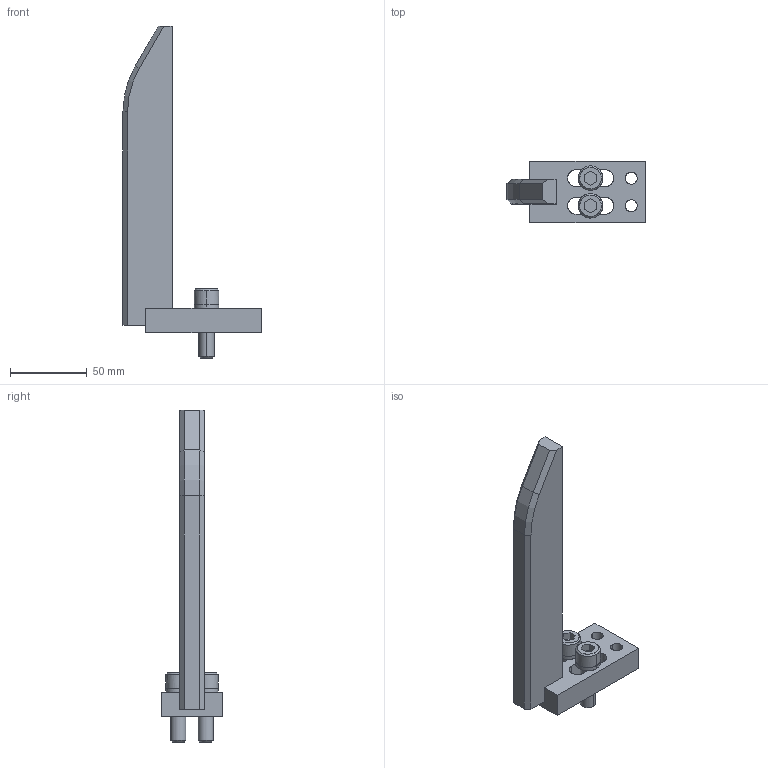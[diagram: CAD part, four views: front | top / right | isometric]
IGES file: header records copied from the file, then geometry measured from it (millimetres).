
Global section: file name: E:\UnigraphicsGraphicData\MISUMI_PRESS-PARTS\IGES\3d_ngnbc-200-40-m10_01540_r00.igs; native system: NX V5.0; preprocessor: UGS NX IGES V5.0; author: MISUMI; date: 20110105.162052; units: millimetre
Bounding box: 90 x 40 x 216.5 mm (x, y, z)
Surface area: 35001.8 mm2 (no closed solid volume)
Topology: 0 solids, 0 shells, 104 faces, 665 edges, 665 vertices
Faces by surface type: bspline 104
